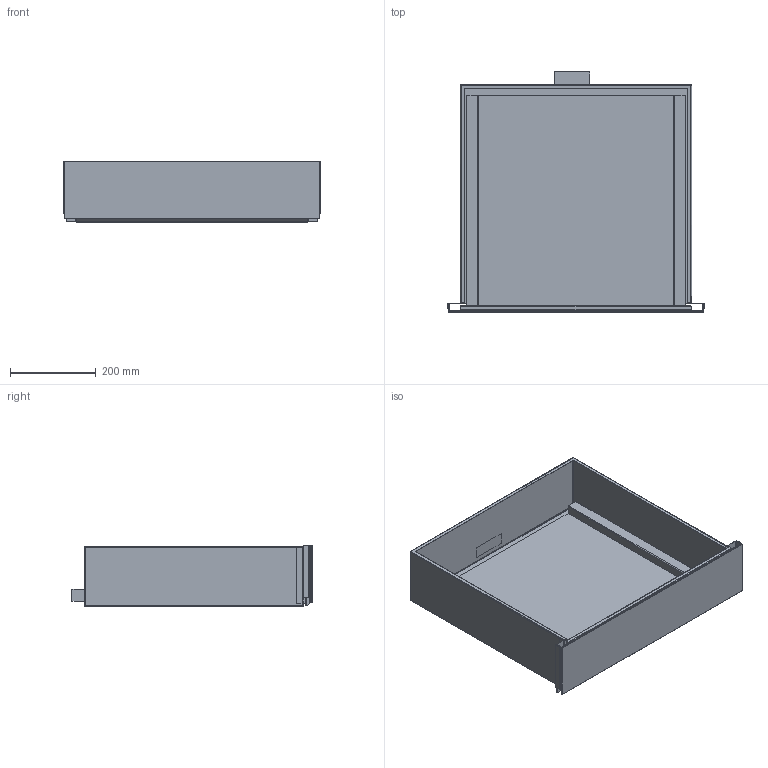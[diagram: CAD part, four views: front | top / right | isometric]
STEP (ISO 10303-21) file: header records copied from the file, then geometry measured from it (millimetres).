
FILE_DESCRIPTION(/* description */ (''),/* implementation_level */ '2;1');
FILE_NAME(/* name */ 'X3500500001-A',/* time_stamp */ '2022-12-06T10:56:34+01:00',/* author */ (''),/* organization */ (''),/* preprocessor_version */ 'ST-DEVELOPER v16.5',/* originating_system */ 'Rhino 7.24',/* authorisation */ '');
FILE_SCHEMA (('AUTOMOTIVE_DESIGN'));
Length unit declared in the file: millimetre
Products named in the file (1): Document
Bounding box: 596 x 559 x 142 mm (x, y, z)
Volume: 2906372.6 mm3; surface area: 1927597.5 mm2
Topology: 7 solids, 7 shells, 160 faces, 394 edges, 238 vertices
Faces by surface type: plane 85, cylinder 57, bspline 18
Entity records: 4679 total; most frequent: CARTESIAN_POINT 1992, ORIENTED_EDGE 768, EDGE_CURVE 384, B_SPLINE_CURVE_WITH_KNOTS 275, VERTEX_POINT 238, EDGE_LOOP 168, ADVANCED_FACE 160, FACE_OUTER_BOUND 160
